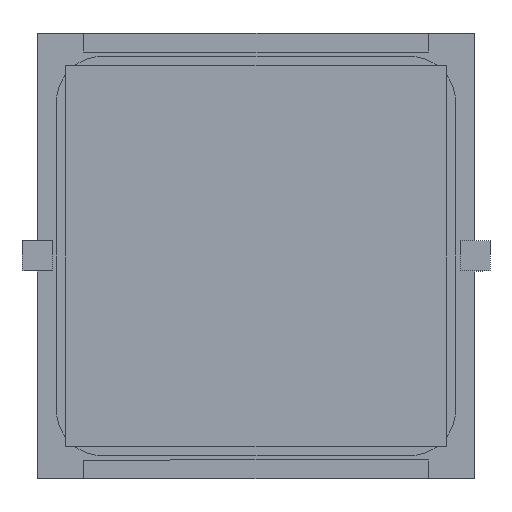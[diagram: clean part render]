
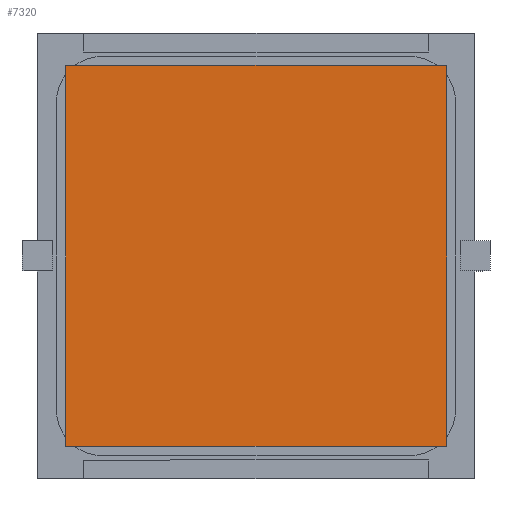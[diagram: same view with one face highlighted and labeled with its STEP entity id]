
A CAD part, front view. The second image highlights one B-rep face of the part: STEP entity #7320.
In plain terms, the highlighted planar face has unit normal (0, -1, 0).
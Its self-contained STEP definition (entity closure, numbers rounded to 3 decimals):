
#179 = PLANE ( 'NONE',  #6834 ) ;
#276 = DIRECTION ( 'NONE',  ( 0., 0., 1. ) ) ;
#533 = CARTESIAN_POINT ( 'NONE',  ( -12.7, -0.127, 12.7 ) ) ;
#723 = CARTESIAN_POINT ( 'NONE',  ( 12.7, -0.127, -12.7 ) ) ;
#1014 = CARTESIAN_POINT ( 'NONE',  ( -12.7, -0.127, -12.7 ) ) ;
#1021 = ORIENTED_EDGE ( 'NONE', *, *, #2767, .F. ) ;
#1406 = DIRECTION ( 'NONE',  ( 1., 0., 0. ) ) ;
#1602 = VECTOR ( 'NONE', #8986, 1000. ) ;
#1921 = LINE ( 'NONE', #3603, #6820 ) ;
#2120 = VERTEX_POINT ( 'NONE', #10014 ) ;
#2147 = ORIENTED_EDGE ( 'NONE', *, *, #5708, .F. ) ;
#2291 = VERTEX_POINT ( 'NONE', #4049 ) ;
#2767 = EDGE_CURVE ( 'NONE', #7211, #9741, #6619, .T. ) ;
#3412 = LINE ( 'NONE', #1014, #4400 ) ;
#3603 = CARTESIAN_POINT ( 'NONE',  ( 12.7, -0.127, -12.7 ) ) ;
#4049 = CARTESIAN_POINT ( 'NONE',  ( -12.7, -0.127, 12.7 ) ) ;
#4400 = VECTOR ( 'NONE', #8355, 1000. ) ;
#4506 = DIRECTION ( 'NONE',  ( 0., 0., -1. ) ) ;
#4665 = EDGE_LOOP ( 'NONE', ( #2147, #1021, #8704, #10331 ) ) ;
#4837 = CARTESIAN_POINT ( 'NONE',  ( -12.7, -0.127, -12.7 ) ) ;
#5568 = VECTOR ( 'NONE', #1406, 1000. ) ;
#5708 = EDGE_CURVE ( 'NONE', #9741, #2291, #3412, .T. ) ;
#6160 = EDGE_CURVE ( 'NONE', #2120, #7211, #1921, .T. ) ;
#6619 = LINE ( 'NONE', #4837, #1602 ) ;
#6820 = VECTOR ( 'NONE', #4506, 1000. ) ;
#6834 = AXIS2_PLACEMENT_3D ( 'NONE', #7839, #6936, #276 ) ;
#6936 = DIRECTION ( 'NONE',  ( 0., 1., 0. ) ) ;
#7211 = VERTEX_POINT ( 'NONE', #723 ) ;
#7320 = ADVANCED_FACE ( 'NONE', ( #7536 ), #179, .F. ) ;
#7442 = CARTESIAN_POINT ( 'NONE',  ( -12.7, -0.127, -12.7 ) ) ;
#7536 = FACE_OUTER_BOUND ( 'NONE', #4665, .T. ) ;
#7839 = CARTESIAN_POINT ( 'NONE',  ( -12.7, -0.127, 12.7 ) ) ;
#8355 = DIRECTION ( 'NONE',  ( 0., 0., 1. ) ) ;
#8704 = ORIENTED_EDGE ( 'NONE', *, *, #6160, .F. ) ;
#8986 = DIRECTION ( 'NONE',  ( -1., 0., 0. ) ) ;
#9595 = LINE ( 'NONE', #533, #5568 ) ;
#9741 = VERTEX_POINT ( 'NONE', #7442 ) ;
#10014 = CARTESIAN_POINT ( 'NONE',  ( 12.7, -0.127, 12.7 ) ) ;
#10177 = EDGE_CURVE ( 'NONE', #2291, #2120, #9595, .T. ) ;
#10331 = ORIENTED_EDGE ( 'NONE', *, *, #10177, .F. ) ;
